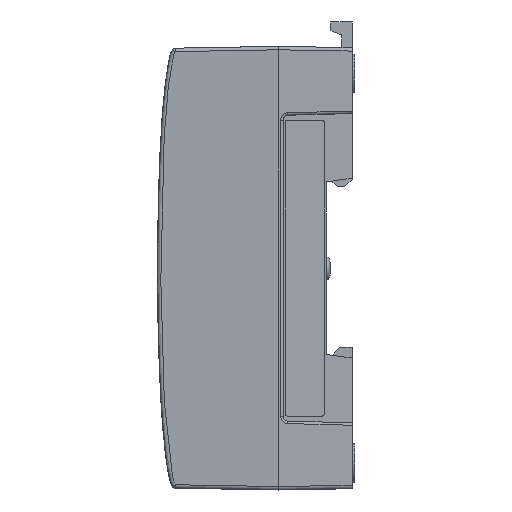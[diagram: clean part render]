
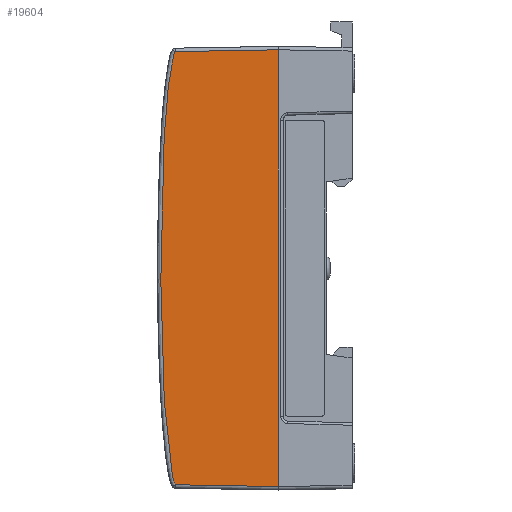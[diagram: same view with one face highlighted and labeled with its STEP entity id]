
A CAD part, left-side view. The second image highlights one B-rep face of the part: STEP entity #19604.
In plain terms, the highlighted planar face has unit normal (-1, 0.018, 0).
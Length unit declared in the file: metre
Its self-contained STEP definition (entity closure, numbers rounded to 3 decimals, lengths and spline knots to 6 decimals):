
#23=B_SPLINE_CURVE_WITH_KNOTS('',3,(#28421,#28422,#28423,#28424,#28425,
#28426,#28427,#28428,#28429,#28430,#28431,#28432,#28433,#28434,#28435,#28436,
#28437,#28438,#28439,#28440,#28441,#28442,#28443),.UNSPECIFIED.,.F.,.F.,
(4,1,1,1,1,1,1,1,1,1,1,1,1,1,1,1,1,1,1,1,4),(0.,0.001385,0.00277,
0.00554,0.00831,0.01108,0.01662,
0.02216,0.0277,0.03324,0.044319,
0.055399,0.060939,0.066479,0.072019,
0.077559,0.080329,0.083099,0.085869,
0.087254,0.088639),.UNSPECIFIED.);
#1418=ORIENTED_EDGE('',*,*,#6750,.T.);
#1419=ORIENTED_EDGE('',*,*,#6880,.T.);
#1420=ORIENTED_EDGE('',*,*,#6881,.T.);
#1421=ORIENTED_EDGE('',*,*,#6882,.T.);
#6750=EDGE_CURVE('',#9555,#9554,#11461,.F.);
#6880=EDGE_CURVE('',#9554,#9626,#11559,.F.);
#6881=EDGE_CURVE('',#9626,#9627,#23,.T.);
#6882=EDGE_CURVE('',#9627,#9555,#11560,.F.);
#9554=VERTEX_POINT('',#27942);
#9555=VERTEX_POINT('',#27944);
#9626=VERTEX_POINT('',#28420);
#9627=VERTEX_POINT('',#28444);
#11461=LINE('',#27943,#13857);
#11559=LINE('',#28419,#13955);
#11560=LINE('',#28445,#13956);
#13857=VECTOR('',#23203,1.);
#13955=VECTOR('',#23469,1.);
#13956=VECTOR('',#23470,1.);
#16194=EDGE_LOOP('',(#1418,#1419,#1420,#1421));
#17460=FACE_BOUND('',#16194,.T.);
#18684=PLANE('',#21920);
#19604=ADVANCED_FACE('',(#17460),#18684,.T.);
#21920=AXIS2_PLACEMENT_3D('',#28418,#23467,#23468);
#23203=DIRECTION('',(0.,0.,-1.));
#23467=DIRECTION('',(-1.,0.017,0.));
#23468=DIRECTION('',(0.017,1.,0.));
#23469=DIRECTION('',(-0.017,-1.,0.017));
#23470=DIRECTION('',(0.017,1.,0.017));
#27942=CARTESIAN_POINT('',(-0.05375,0.,0.0443));
#27943=CARTESIAN_POINT('',(-0.05375,0.,0.));
#27944=CARTESIAN_POINT('',(-0.05375,0.,-0.0443));
#28418=CARTESIAN_POINT('',(-0.05375,0.,0.));
#28419=CARTESIAN_POINT('',(-0.053379,0.021245,0.043929));
#28420=CARTESIAN_POINT('',(-0.053385,0.020909,0.043935));
#28421=CARTESIAN_POINT('',(-0.053385,0.020909,0.043935));
#28422=CARTESIAN_POINT('',(-0.053381,0.021124,0.043525));
#28423=CARTESIAN_POINT('',(-0.053377,0.021367,0.042631));
#28424=CARTESIAN_POINT('',(-0.05337,0.021759,0.040836));
#28425=CARTESIAN_POINT('',(-0.053364,0.022097,0.038558));
#28426=CARTESIAN_POINT('',(-0.053359,0.022417,0.035817));
#28427=CARTESIAN_POINT('',(-0.053353,0.02276,0.032155));
#28428=CARTESIAN_POINT('',(-0.053347,0.023085,0.02757));
#28429=CARTESIAN_POINT('',(-0.053342,0.02337,0.022059));
#28430=CARTESIAN_POINT('',(-0.053338,0.023575,0.016545));
#28431=CARTESIAN_POINT('',(-0.053335,0.02376,0.009193));
#28432=CARTESIAN_POINT('',(-0.053334,0.023847,0.000001));
#28433=CARTESIAN_POINT('',(-0.053335,0.02376,-0.009196));
#28434=CARTESIAN_POINT('',(-0.053339,0.023575,-0.016547));
#28435=CARTESIAN_POINT('',(-0.053342,0.02337,-0.022058));
#28436=CARTESIAN_POINT('',(-0.053347,0.023086,-0.027566));
#28437=CARTESIAN_POINT('',(-0.053353,0.022761,-0.032152));
#28438=CARTESIAN_POINT('',(-0.053359,0.022417,-0.035817));
#28439=CARTESIAN_POINT('',(-0.053364,0.022097,-0.038557));
#28440=CARTESIAN_POINT('',(-0.05337,0.02176,-0.040832));
#28441=CARTESIAN_POINT('',(-0.053377,0.021366,-0.042633));
#28442=CARTESIAN_POINT('',(-0.053381,0.021126,-0.043521));
#28443=CARTESIAN_POINT('',(-0.053385,0.020909,-0.043935));
#28444=CARTESIAN_POINT('',(-0.053385,0.020909,-0.043935));
#28445=CARTESIAN_POINT('',(-0.053737,0.000773,-0.044287));
